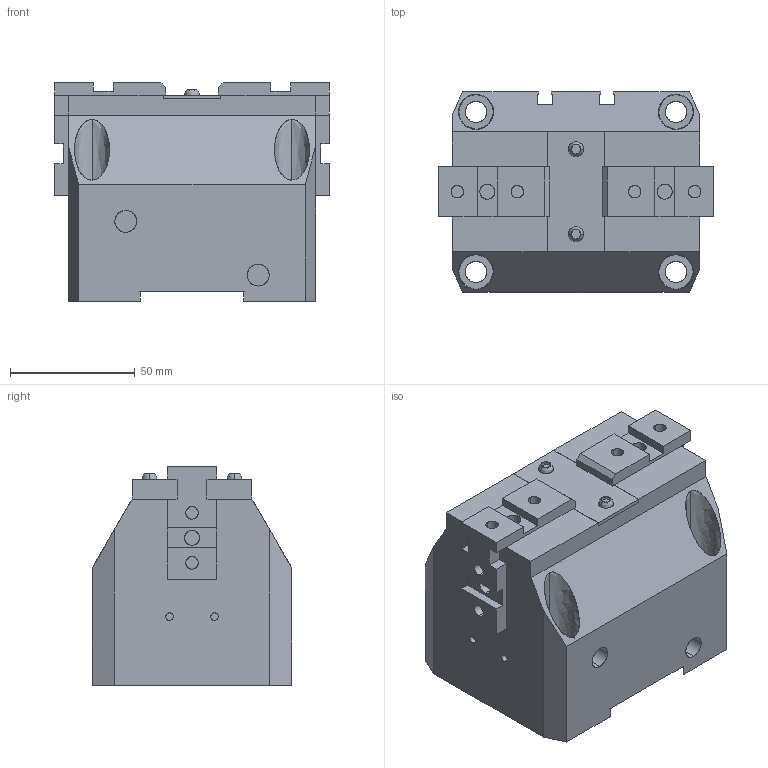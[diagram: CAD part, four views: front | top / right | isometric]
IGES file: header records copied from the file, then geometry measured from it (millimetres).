
Global section: file name: C:\Documents and Settings\Administrateur\Mes documents\OPE-100-S-OPEN.igs; native system: AutoCAD-16.0s (LMS Tech) (Microsoft Windows NT Version 5.1 (x86)); preprocessor: Autodesk IGES Translator Mechanical Desktop.R7.0.43.0 (Mar 18 2003) from Autodesk, Inc.; date: 20050629.103744; units: millimetre
Bounding box: 110 x 80 x 87.5 mm (x, y, z)
Surface area: 85140.8 mm2 (no closed solid volume)
Topology: 0 solids, 0 shells, 227 faces, 2191 edges, 2276 vertices
Faces by surface type: bspline 227
